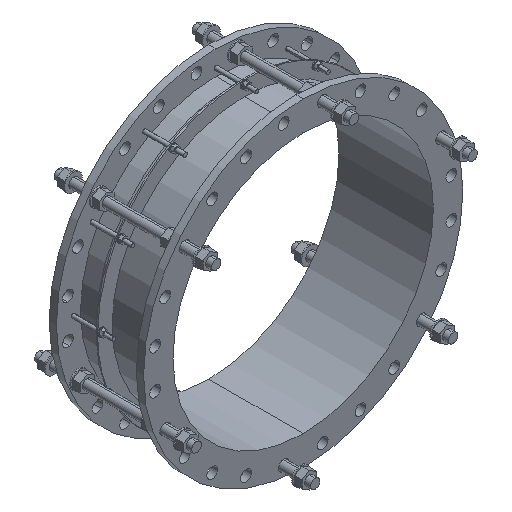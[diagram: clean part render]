
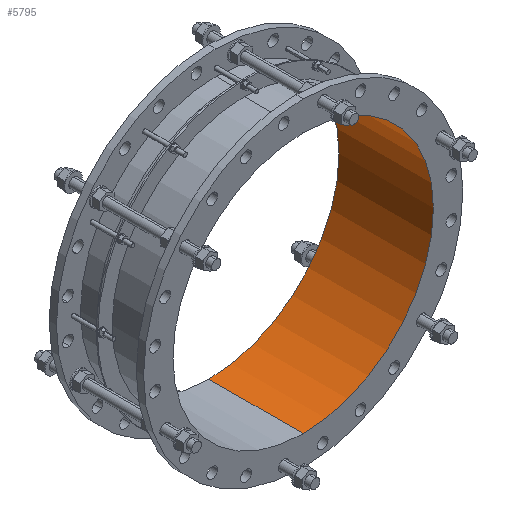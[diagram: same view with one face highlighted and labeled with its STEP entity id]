
A CAD part, isometric view. The second image highlights one B-rep face of the part: STEP entity #5795.
In plain terms, the highlighted cylindrical face has radius 414 mm (diameter 828 mm), a partial arc.
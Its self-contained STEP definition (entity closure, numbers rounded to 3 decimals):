
#7=DIRECTION('',(0.,-1.,0.));
#8=VECTOR('',#7,300.);
#9=CARTESIAN_POINT('',(0.,0.,-414.));
#10=LINE('',#9,#8);
#11=CARTESIAN_POINT('',(0.,0.,0.));
#12=DIRECTION('',(0.,-1.,0.));
#13=DIRECTION('',(0.,0.,-1.));
#14=AXIS2_PLACEMENT_3D('',#11,#12,#13);
#16=DIRECTION('',(0.,-1.,0.));
#17=VECTOR('',#16,300.);
#18=CARTESIAN_POINT('',(0.,0.,414.));
#19=LINE('',#18,#17);
#1765=CARTESIAN_POINT('',(0.,-300.,0.));
#1766=DIRECTION('',(0.,-1.,0.));
#1767=DIRECTION('',(0.,0.,-1.));
#1768=AXIS2_PLACEMENT_3D('',#1765,#1766,#1767);
#4654=CARTESIAN_POINT('',(0.,0.,-414.));
#4655=CARTESIAN_POINT('',(0.,-300.,-414.));
#4656=VERTEX_POINT('',#4654);
#4657=VERTEX_POINT('',#4655);
#4674=CARTESIAN_POINT('',(0.,0.,414.));
#4675=CARTESIAN_POINT('',(0.,-300.,414.));
#4676=VERTEX_POINT('',#4674);
#4677=VERTEX_POINT('',#4675);
#5782=CARTESIAN_POINT('',(0.,-315.,0.));
#5783=DIRECTION('',(0.,1.,0.));
#5784=DIRECTION('',(0.,0.,-1.));
#5785=AXIS2_PLACEMENT_3D('',#5782,#5783,#5784);
#5786=CYLINDRICAL_SURFACE('',#5785,414.);
#5787=ORIENTED_EDGE('',*,*,#5771,.F.);
#5789=ORIENTED_EDGE('',*,*,#5788,.T.);
#5790=ORIENTED_EDGE('',*,*,#5775,.T.);
#5792=ORIENTED_EDGE('',*,*,#5791,.F.);
#5793=EDGE_LOOP('',(#5787,#5789,#5790,#5792));
#5794=FACE_OUTER_BOUND('',#5793,.F.);
#5795=ADVANCED_FACE('',(#5794),#5786,.F.);
#15=CIRCLE('',#14,414.);
#1769=CIRCLE('',#1768,414.);
#5771=EDGE_CURVE('',#4656,#4657,#10,.T.);
#5775=EDGE_CURVE('',#4676,#4677,#19,.T.);
#5788=EDGE_CURVE('',#4656,#4676,#15,.T.);
#5791=EDGE_CURVE('',#4657,#4677,#1769,.T.);
